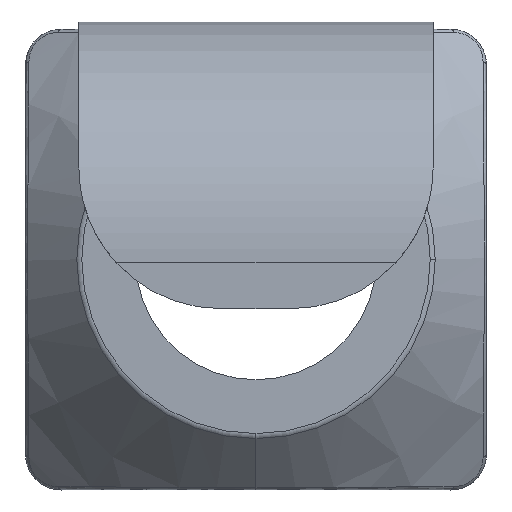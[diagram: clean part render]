
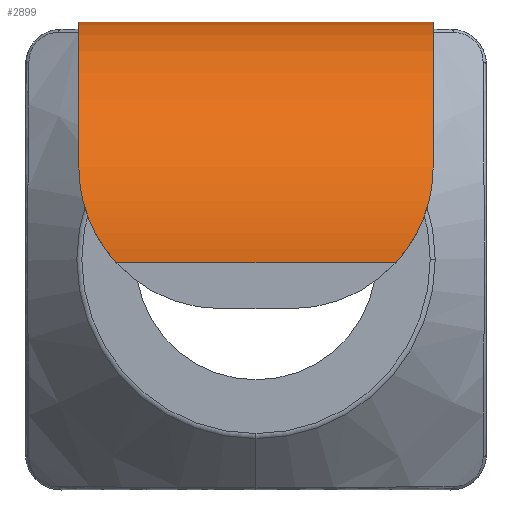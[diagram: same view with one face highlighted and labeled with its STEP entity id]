
A CAD part, top view. The second image highlights one B-rep face of the part: STEP entity #2899.
In plain terms, the highlighted cylindrical face has radius 6.8 mm (diameter 13.6 mm), a partial arc.
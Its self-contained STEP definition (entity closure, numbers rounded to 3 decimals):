
#5 = CARTESIAN_POINT ( 'NONE',  ( -4.274, 0.288, 10.792 ) ) ;
#19 = CARTESIAN_POINT ( 'NONE',  ( -4.838, 1.471, 10.616 ) ) ;
#34 = B_SPLINE_CURVE_WITH_KNOTS ( 'NONE', 3,
 ( #3267, #406, #692, #1910, #936, #1207, #881, #2938, #1448, #1689, #2720, #902, #429, #171, #2465, #1981 ),
 .UNSPECIFIED., .F., .F.,
 ( 4, 2, 2, 2, 2, 2, 2, 4 ),
 ( 0., 0.125, 0.188, 0.25, 0.375, 0.438, 0.5, 1. ),
 .UNSPECIFIED. ) ;
#51 = CARTESIAN_POINT ( 'NONE',  ( -4.562, 0.778, 10.743 ) ) ;
#171 = CARTESIAN_POINT ( 'NONE',  ( 4.914, 1.64, 10.59 ) ) ;
#193 = ORIENTED_EDGE ( 'NONE', *, *, #1424, .T. ) ;
#209 = EDGE_CURVE ( 'NONE', #1923, #2382, #876, .T. ) ;
#228 = DIRECTION ( 'NONE',  ( -1., 0., 0. ) ) ;
#236 = EDGE_CURVE ( 'NONE', #3050, #2382, #2806, .T. ) ;
#348 = VERTEX_POINT ( 'NONE', #2159 ) ;
#406 = CARTESIAN_POINT ( 'NONE',  ( 4.037, -0.006, 10.8 ) ) ;
#429 = CARTESIAN_POINT ( 'NONE',  ( 4.719, 1.126, 10.689 ) ) ;
#432 = DIRECTION ( 'NONE',  ( -1., 0., 0. ) ) ;
#494 = CARTESIAN_POINT ( 'NONE',  ( -4.437, 0.554, 10.769 ) ) ;
#553 = CARTESIAN_POINT ( 'NONE',  ( -4.471, 0.61, 10.763 ) ) ;
#587 = CARTESIAN_POINT ( 'NONE',  ( 5., 2.6, 10.241 ) ) ;
#624 = VECTOR ( 'NONE', #2061, 1000. ) ;
#692 = CARTESIAN_POINT ( 'NONE',  ( 4.118, 0.091, 10.798 ) ) ;
#771 = CARTESIAN_POINT ( 'NONE',  ( -4.532, 0.722, 10.75 ) ) ;
#774 = CARTESIAN_POINT ( 'NONE',  ( 3.951, -0.1, 10.8 ) ) ;
#876 = B_SPLINE_CURVE_WITH_KNOTS ( 'NONE', 3,
 ( #1625, #1642, #2669, #1137, #3194, #19, #1513, #2789, #1528, #1293, #2566, #51, #771, #553, #494, #5, #1783, #1544 ),
 .UNSPECIFIED., .F., .F.,
 ( 4, 2, 2, 2, 2, 2, 2, 2, 4 ),
 ( 0., 0.25, 0.375, 0.438, 0.5, 0.625, 0.688, 0.75, 1. ),
 .UNSPECIFIED. ) ;
#880 = DIRECTION ( 'NONE',  ( 0., 0., 1. ) ) ;
#881 = CARTESIAN_POINT ( 'NONE',  ( 4.371, 0.446, 10.778 ) ) ;
#902 = CARTESIAN_POINT ( 'NONE',  ( 4.695, 1.066, 10.7 ) ) ;
#936 = CARTESIAN_POINT ( 'NONE',  ( 4.267, 0.292, 10.789 ) ) ;
#997 = CIRCLE ( 'NONE', #1693, 6.8 ) ;
#1014 = CYLINDRICAL_SURFACE ( 'NONE', #2237, 6.8 ) ;
#1137 = CARTESIAN_POINT ( 'NONE',  ( -4.914, 1.764, 10.541 ) ) ;
#1207 = CARTESIAN_POINT ( 'NONE',  ( 4.338, 0.395, 10.782 ) ) ;
#1213 = DIRECTION ( 'NONE',  ( 0., 0., 1. ) ) ;
#1260 = EDGE_CURVE ( 'NONE', #1709, #2564, #997, .T. ) ;
#1293 = CARTESIAN_POINT ( 'NONE',  ( -4.696, 1.065, 10.7 ) ) ;
#1308 = EDGE_CURVE ( 'NONE', #3050, #1709, #34, .T. ) ;
#1350 = EDGE_LOOP ( 'NONE', ( #2290, #2848, #3131, #1628, #1533, #193 ) ) ;
#1424 = EDGE_CURVE ( 'NONE', #348, #1923, #2823, .T. ) ;
#1448 = CARTESIAN_POINT ( 'NONE',  ( 4.534, 0.721, 10.751 ) ) ;
#1513 = CARTESIAN_POINT ( 'NONE',  ( -4.82, 1.413, 10.63 ) ) ;
#1528 = CARTESIAN_POINT ( 'NONE',  ( -4.763, 1.243, 10.666 ) ) ;
#1533 = ORIENTED_EDGE ( 'NONE', *, *, #3291, .T. ) ;
#1544 = CARTESIAN_POINT ( 'NONE',  ( -3.951, -0.1, 10.8 ) ) ;
#1625 = CARTESIAN_POINT ( 'NONE',  ( -5., 2.6, 10.241 ) ) ;
#1628 = ORIENTED_EDGE ( 'NONE', *, *, #1260, .T. ) ;
#1642 = CARTESIAN_POINT ( 'NONE',  ( -5., 2.359, 10.345 ) ) ;
#1687 = DIRECTION ( 'NONE',  ( 1., 0., 0. ) ) ;
#1689 = CARTESIAN_POINT ( 'NONE',  ( 4.618, 0.892, 10.727 ) ) ;
#1693 = AXIS2_PLACEMENT_3D ( 'NONE', #2106, #2126, #2851 ) ;
#1709 = VERTEX_POINT ( 'NONE', #587 ) ;
#1717 = FACE_OUTER_BOUND ( 'NONE', #1350, .T. ) ;
#1783 = CARTESIAN_POINT ( 'NONE',  ( -4.123, 0.087, 10.8 ) ) ;
#1910 = CARTESIAN_POINT ( 'NONE',  ( 4.231, 0.241, 10.792 ) ) ;
#1923 = VERTEX_POINT ( 'NONE', #2068 ) ;
#1966 = CARTESIAN_POINT ( 'NONE',  ( 5., 6.7, 4. ) ) ;
#1981 = CARTESIAN_POINT ( 'NONE',  ( 5., 2.6, 10.241 ) ) ;
#2061 = DIRECTION ( 'NONE',  ( -1., 0., 0. ) ) ;
#2068 = CARTESIAN_POINT ( 'NONE',  ( -5., 2.6, 10.241 ) ) ;
#2106 = CARTESIAN_POINT ( 'NONE',  ( 5., -0.1, 4. ) ) ;
#2126 = DIRECTION ( 'NONE',  ( -1., 0., 0. ) ) ;
#2159 = CARTESIAN_POINT ( 'NONE',  ( -5., 6.7, 4. ) ) ;
#2232 = LINE ( 'NONE', #1966, #2490 ) ;
#2237 = AXIS2_PLACEMENT_3D ( 'NONE', #3287, #228, #1213 ) ;
#2290 = ORIENTED_EDGE ( 'NONE', *, *, #209, .T. ) ;
#2291 = CARTESIAN_POINT ( 'NONE',  ( -3.951, -0.1, 10.8 ) ) ;
#2382 = VERTEX_POINT ( 'NONE', #2291 ) ;
#2465 = CARTESIAN_POINT ( 'NONE',  ( 5., 2.118, 10.45 ) ) ;
#2490 = VECTOR ( 'NONE', #432, 1000. ) ;
#2564 = VERTEX_POINT ( 'NONE', #2668 ) ;
#2566 = CARTESIAN_POINT ( 'NONE',  ( -4.646, 0.949, 10.72 ) ) ;
#2668 = CARTESIAN_POINT ( 'NONE',  ( 5., 6.7, 4. ) ) ;
#2669 = CARTESIAN_POINT ( 'NONE',  ( -4.978, 2.119, 10.433 ) ) ;
#2720 = CARTESIAN_POINT ( 'NONE',  ( 4.644, 0.95, 10.719 ) ) ;
#2789 = CARTESIAN_POINT ( 'NONE',  ( -4.783, 1.298, 10.655 ) ) ;
#2806 = LINE ( 'NONE', #2850, #624 ) ;
#2823 = CIRCLE ( 'NONE', #3262, 6.8 ) ;
#2848 = ORIENTED_EDGE ( 'NONE', *, *, #236, .F. ) ;
#2850 = CARTESIAN_POINT ( 'NONE',  ( 5., -0.1, 10.8 ) ) ;
#2851 = DIRECTION ( 'NONE',  ( 0., 0., 1. ) ) ;
#2899 = ADVANCED_FACE ( 'NONE', ( #1717 ), #1014, .T. ) ;
#2938 = CARTESIAN_POINT ( 'NONE',  ( 4.472, 0.61, 10.764 ) ) ;
#3050 = VERTEX_POINT ( 'NONE', #774 ) ;
#3131 = ORIENTED_EDGE ( 'NONE', *, *, #1308, .T. ) ;
#3190 = CARTESIAN_POINT ( 'NONE',  ( -5., -0.1, 4. ) ) ;
#3194 = CARTESIAN_POINT ( 'NONE',  ( -4.887, 1.646, 10.573 ) ) ;
#3262 = AXIS2_PLACEMENT_3D ( 'NONE', #3190, #1687, #880 ) ;
#3267 = CARTESIAN_POINT ( 'NONE',  ( 3.951, -0.1, 10.8 ) ) ;
#3287 = CARTESIAN_POINT ( 'NONE',  ( 5., -0.1, 4. ) ) ;
#3291 = EDGE_CURVE ( 'NONE', #2564, #348, #2232, .T. ) ;
